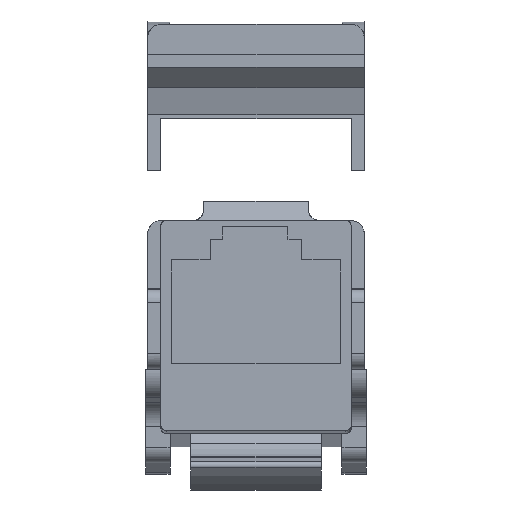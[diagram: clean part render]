
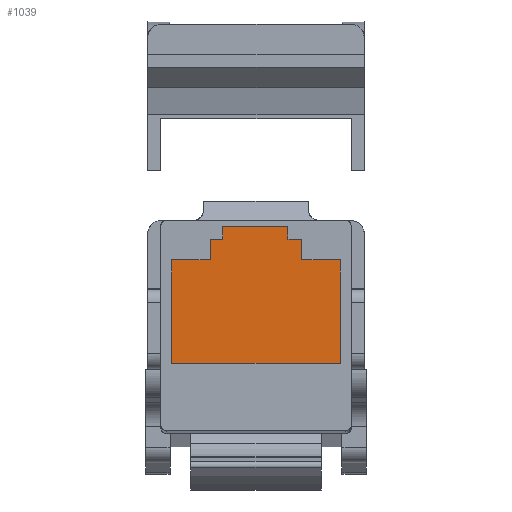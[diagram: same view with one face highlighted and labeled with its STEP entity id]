
A CAD part, left-side view. The second image highlights one B-rep face of the part: STEP entity #1039.
In plain terms, the highlighted free-form (B-spline) face has degree [1, 1] with [2, 2] control points.
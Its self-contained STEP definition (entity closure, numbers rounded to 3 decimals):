
#547=CARTESIAN_POINT('',(10.,2.546,15.609));
#548=VERTEX_POINT('',#547);
#558=CARTESIAN_POINT('',(10.,2.546,14.627));
#559=VERTEX_POINT('',#558);
#560=CARTESIAN_POINT('',(10.,2.546,14.627));
#561=CARTESIAN_POINT('',(10.,2.546,14.823));
#562=CARTESIAN_POINT('',(10.,2.546,15.02));
#563=CARTESIAN_POINT('',(10.,2.546,15.216));
#564=CARTESIAN_POINT('',(10.,2.546,15.412));
#565=CARTESIAN_POINT('',(10.,2.546,15.609));
#566=B_SPLINE_CURVE_WITH_KNOTS('',5,(#560,#561,#562,#563,#564,#565),.UNSPECIFIED.,.F.,.U.,(6,6),(0.,0.982),.UNSPECIFIED.);
#567=EDGE_CURVE('',#559,#548,#566,.T.);
#598=CARTESIAN_POINT('',(10.,3.504,14.627));
#599=VERTEX_POINT('',#598);
#600=CARTESIAN_POINT('',(10.,3.504,14.627));
#601=CARTESIAN_POINT('',(10.,3.313,14.627));
#602=CARTESIAN_POINT('',(10.,3.121,14.627));
#603=CARTESIAN_POINT('',(10.,2.93,14.627));
#604=CARTESIAN_POINT('',(10.,2.738,14.627));
#605=CARTESIAN_POINT('',(10.,2.546,14.627));
#606=B_SPLINE_CURVE_WITH_KNOTS('',5,(#600,#601,#602,#603,#604,#605),.UNSPECIFIED.,.F.,.U.,(6,6),(0.,0.958),.UNSPECIFIED.);
#607=EDGE_CURVE('',#599,#559,#606,.T.);
#638=CARTESIAN_POINT('',(10.,3.504,13.04));
#639=VERTEX_POINT('',#638);
#640=CARTESIAN_POINT('',(10.,3.504,13.04));
#641=CARTESIAN_POINT('',(10.,3.504,13.357));
#642=CARTESIAN_POINT('',(10.,3.504,13.675));
#643=CARTESIAN_POINT('',(10.,3.504,13.992));
#644=CARTESIAN_POINT('',(10.,3.504,14.31));
#645=CARTESIAN_POINT('',(10.,3.504,14.627));
#646=B_SPLINE_CURVE_WITH_KNOTS('',5,(#640,#641,#642,#643,#644,#645),.UNSPECIFIED.,.F.,.U.,(6,6),(0.,1.587),.UNSPECIFIED.);
#647=EDGE_CURVE('',#639,#599,#646,.T.);
#678=CARTESIAN_POINT('',(10.,6.458,13.04));
#679=VERTEX_POINT('',#678);
#680=CARTESIAN_POINT('',(10.,6.458,13.04));
#681=CARTESIAN_POINT('',(10.,5.867,13.04));
#682=CARTESIAN_POINT('',(10.,5.276,13.04));
#683=CARTESIAN_POINT('',(10.,4.686,13.04));
#684=CARTESIAN_POINT('',(10.,4.095,13.04));
#685=CARTESIAN_POINT('',(10.,3.504,13.04));
#686=B_SPLINE_CURVE_WITH_KNOTS('',5,(#680,#681,#682,#683,#684,#685),.UNSPECIFIED.,.F.,.U.,(6,6),(0.,2.953),.UNSPECIFIED.);
#687=EDGE_CURVE('',#679,#639,#686,.T.);
#718=CARTESIAN_POINT('',(10.,6.458,5.15));
#719=VERTEX_POINT('',#718);
#720=CARTESIAN_POINT('',(10.,6.458,5.15));
#721=CARTESIAN_POINT('',(10.,6.458,6.728));
#722=CARTESIAN_POINT('',(10.,6.458,8.306));
#723=CARTESIAN_POINT('',(10.,6.458,9.884));
#724=CARTESIAN_POINT('',(10.,6.458,11.462));
#725=CARTESIAN_POINT('',(10.,6.458,13.04));
#726=B_SPLINE_CURVE_WITH_KNOTS('',5,(#720,#721,#722,#723,#724,#725),.UNSPECIFIED.,.F.,.U.,(6,6),(0.,7.89),.UNSPECIFIED.);
#727=EDGE_CURVE('',#719,#679,#726,.T.);
#758=CARTESIAN_POINT('',(10.,-6.458,5.15));
#759=VERTEX_POINT('',#758);
#760=CARTESIAN_POINT('',(10.,-6.458,5.15));
#761=CARTESIAN_POINT('',(10.,-3.875,5.15));
#762=CARTESIAN_POINT('',(10.,-1.292,5.15));
#763=CARTESIAN_POINT('',(10.,1.292,5.15));
#764=CARTESIAN_POINT('',(10.,3.875,5.15));
#765=CARTESIAN_POINT('',(10.,6.458,5.15));
#766=B_SPLINE_CURVE_WITH_KNOTS('',5,(#760,#761,#762,#763,#764,#765),.UNSPECIFIED.,.F.,.U.,(6,6),(0.,12.915),.UNSPECIFIED.);
#767=EDGE_CURVE('',#759,#719,#766,.T.);
#798=CARTESIAN_POINT('',(10.,-6.458,13.04));
#799=VERTEX_POINT('',#798);
#800=CARTESIAN_POINT('',(10.,-6.458,13.04));
#801=CARTESIAN_POINT('',(10.,-6.458,11.462));
#802=CARTESIAN_POINT('',(10.,-6.458,9.884));
#803=CARTESIAN_POINT('',(10.,-6.458,8.306));
#804=CARTESIAN_POINT('',(10.,-6.458,6.728));
#805=CARTESIAN_POINT('',(10.,-6.458,5.15));
#806=B_SPLINE_CURVE_WITH_KNOTS('',5,(#800,#801,#802,#803,#804,#805),.UNSPECIFIED.,.F.,.U.,(6,6),(0.,7.89),.UNSPECIFIED.);
#807=EDGE_CURVE('',#799,#759,#806,.T.);
#838=CARTESIAN_POINT('',(10.,-3.504,13.04));
#839=VERTEX_POINT('',#838);
#840=CARTESIAN_POINT('',(10.,-3.504,13.04));
#841=CARTESIAN_POINT('',(10.,-4.095,13.04));
#842=CARTESIAN_POINT('',(10.,-4.686,13.04));
#843=CARTESIAN_POINT('',(10.,-5.276,13.04));
#844=CARTESIAN_POINT('',(10.,-5.867,13.04));
#845=CARTESIAN_POINT('',(10.,-6.458,13.04));
#846=B_SPLINE_CURVE_WITH_KNOTS('',5,(#840,#841,#842,#843,#844,#845),.UNSPECIFIED.,.F.,.U.,(6,6),(0.,2.953),.UNSPECIFIED.);
#847=EDGE_CURVE('',#839,#799,#846,.T.);
#878=CARTESIAN_POINT('',(10.,-3.504,14.627));
#879=VERTEX_POINT('',#878);
#880=CARTESIAN_POINT('',(10.,-3.504,14.627));
#881=CARTESIAN_POINT('',(10.,-3.504,14.31));
#882=CARTESIAN_POINT('',(10.,-3.504,13.992));
#883=CARTESIAN_POINT('',(10.,-3.504,13.675));
#884=CARTESIAN_POINT('',(10.,-3.504,13.357));
#885=CARTESIAN_POINT('',(10.,-3.504,13.04));
#886=B_SPLINE_CURVE_WITH_KNOTS('',5,(#880,#881,#882,#883,#884,#885),.UNSPECIFIED.,.F.,.U.,(6,6),(0.,1.587),.UNSPECIFIED.);
#887=EDGE_CURVE('',#879,#839,#886,.T.);
#918=CARTESIAN_POINT('',(10.,-2.446,14.627));
#919=VERTEX_POINT('',#918);
#920=CARTESIAN_POINT('',(10.,-2.446,14.627));
#921=CARTESIAN_POINT('',(10.,-2.658,14.627));
#922=CARTESIAN_POINT('',(10.,-2.87,14.627));
#923=CARTESIAN_POINT('',(10.,-3.081,14.627));
#924=CARTESIAN_POINT('',(10.,-3.293,14.627));
#925=CARTESIAN_POINT('',(10.,-3.504,14.627));
#926=B_SPLINE_CURVE_WITH_KNOTS('',5,(#920,#921,#922,#923,#924,#925),.UNSPECIFIED.,.F.,.U.,(6,6),(0.,1.058),.UNSPECIFIED.);
#927=EDGE_CURVE('',#919,#879,#926,.T.);
#958=CARTESIAN_POINT('',(10.,-2.446,15.609));
#959=VERTEX_POINT('',#958);
#960=CARTESIAN_POINT('',(10.,-2.446,15.609));
#961=CARTESIAN_POINT('',(10.,-2.446,15.412));
#962=CARTESIAN_POINT('',(10.,-2.446,15.216));
#963=CARTESIAN_POINT('',(10.,-2.446,15.02));
#964=CARTESIAN_POINT('',(10.,-2.446,14.823));
#965=CARTESIAN_POINT('',(10.,-2.446,14.627));
#966=B_SPLINE_CURVE_WITH_KNOTS('',5,(#960,#961,#962,#963,#964,#965),.UNSPECIFIED.,.F.,.U.,(6,6),(0.,0.982),.UNSPECIFIED.);
#967=EDGE_CURVE('',#959,#919,#966,.T.);
#998=CARTESIAN_POINT('',(10.,2.546,15.609));
#999=CARTESIAN_POINT('',(10.,1.548,15.609));
#1000=CARTESIAN_POINT('',(10.,0.549,15.609));
#1001=CARTESIAN_POINT('',(10.,-0.449,15.609));
#1002=CARTESIAN_POINT('',(10.,-1.448,15.609));
#1003=CARTESIAN_POINT('',(10.,-2.446,15.609));
#1004=B_SPLINE_CURVE_WITH_KNOTS('',5,(#998,#999,#1000,#1001,#1002,#1003),.UNSPECIFIED.,.F.,.U.,(6,6),(0.,4.993),.UNSPECIFIED.);
#1005=EDGE_CURVE('',#548,#959,#1004,.T.);
#1020=CARTESIAN_POINT('',(10.,-6.458,15.609));
#1021=CARTESIAN_POINT('',(10.,6.458,15.609));
#1022=CARTESIAN_POINT('',(10.,-6.458,5.15));
#1023=CARTESIAN_POINT('',(10.,6.458,5.15));
#1024=B_SPLINE_SURFACE_WITH_KNOTS('',1,1,((#1020,#1021),(#1022,#1023)),.PLANE_SURF.,.F.,.F.,.U.,(2,2),(2,2),(0.,1.),(0.,1.235),.UNSPECIFIED.);
#1025=ORIENTED_EDGE('',*,*,#967,.T.);
#1026=ORIENTED_EDGE('',*,*,#927,.T.);
#1027=ORIENTED_EDGE('',*,*,#887,.T.);
#1028=ORIENTED_EDGE('',*,*,#847,.T.);
#1029=ORIENTED_EDGE('',*,*,#807,.T.);
#1030=ORIENTED_EDGE('',*,*,#767,.T.);
#1031=ORIENTED_EDGE('',*,*,#727,.T.);
#1032=ORIENTED_EDGE('',*,*,#687,.T.);
#1033=ORIENTED_EDGE('',*,*,#647,.T.);
#1034=ORIENTED_EDGE('',*,*,#607,.T.);
#1035=ORIENTED_EDGE('',*,*,#567,.T.);
#1036=ORIENTED_EDGE('',*,*,#1005,.T.);
#1037=EDGE_LOOP('',(#1025,#1026,#1027,#1028,#1029,#1030,#1031,#1032,#1033,#1034,#1035,#1036));
#1038=FACE_OUTER_BOUND('',#1037,.F.);
#1039=ADVANCED_FACE('',(#1038),#1024,.F.);
